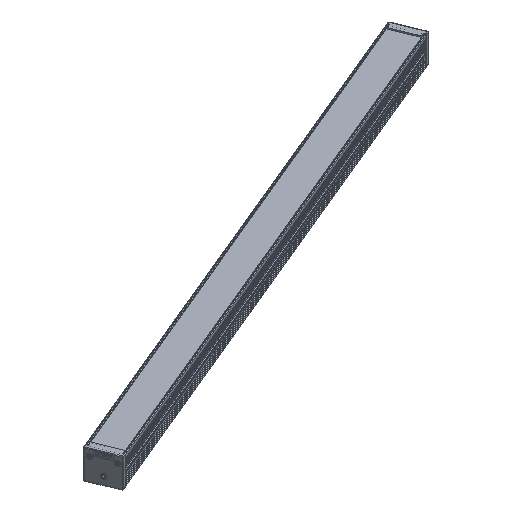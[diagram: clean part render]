
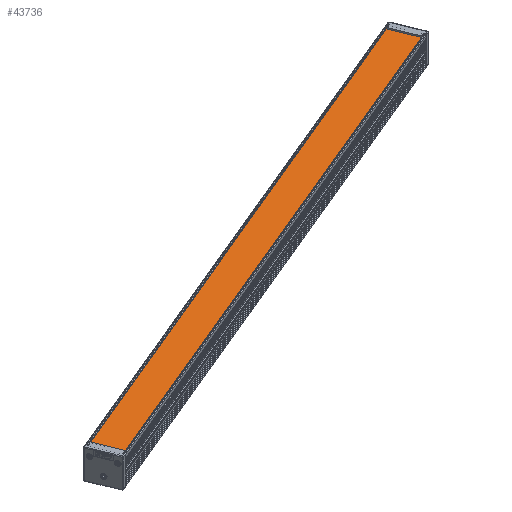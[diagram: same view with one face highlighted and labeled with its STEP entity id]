
A CAD part, isometric view. The second image highlights one B-rep face of the part: STEP entity #43736.
In plain terms, the highlighted planar face has unit normal (0, 0, 1) as drawn and (0, -1, 0) by its records, which use the part's own axes.
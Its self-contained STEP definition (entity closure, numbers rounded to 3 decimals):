
#1294 = LINE ( 'NONE', #52822, #3243 ) ;
#3243 = VECTOR ( 'NONE', #39602, 1000. ) ;
#5414 = VECTOR ( 'NONE', #38707, 1000. ) ;
#5685 = DIRECTION ( 'NONE',  ( 0., 0., -1. ) ) ;
#6526 = CARTESIAN_POINT ( 'NONE',  ( -24., -23.4, 0. ) ) ;
#6977 = VECTOR ( 'NONE', #13030, 1000. ) ;
#7942 = CARTESIAN_POINT ( 'NONE',  ( 24., -23.4, 0. ) ) ;
#8052 = VERTEX_POINT ( 'NONE', #6526 ) ;
#12337 = EDGE_CURVE ( 'NONE', #28512, #8052, #16795, .T. ) ;
#12753 = LINE ( 'NONE', #17315, #6977 ) ;
#13030 = DIRECTION ( 'NONE',  ( 0., 0., -1. ) ) ;
#14309 = FACE_OUTER_BOUND ( 'NONE', #26955, .T. ) ;
#14718 = ORIENTED_EDGE ( 'NONE', *, *, #12337, .F. ) ;
#14790 = VECTOR ( 'NONE', #44465, 1000. ) ;
#16795 = LINE ( 'NONE', #7942, #5414 ) ;
#17315 = CARTESIAN_POINT ( 'NONE',  ( -24., -23.4, 971.094 ) ) ;
#18531 = CARTESIAN_POINT ( 'NONE',  ( 24., -23.4, 923. ) ) ;
#19434 = CARTESIAN_POINT ( 'NONE',  ( 24., -23.4, 971.094 ) ) ;
#20082 = CARTESIAN_POINT ( 'NONE',  ( 24., -23.4, 0. ) ) ;
#20562 = EDGE_CURVE ( 'NONE', #22614, #28512, #1294, .T. ) ;
#22614 = VERTEX_POINT ( 'NONE', #31171 ) ;
#25928 = ORIENTED_EDGE ( 'NONE', *, *, #20562, .F. ) ;
#26465 = AXIS2_PLACEMENT_3D ( 'NONE', #19434, #50243, #5685 ) ;
#26949 = LINE ( 'NONE', #18531, #14790 ) ;
#26955 = EDGE_LOOP ( 'NONE', ( #25928, #45779, #44799, #14718 ) ) ;
#28512 = VERTEX_POINT ( 'NONE', #20082 ) ;
#31171 = CARTESIAN_POINT ( 'NONE',  ( 24., -23.4, 923. ) ) ;
#32802 = EDGE_CURVE ( 'NONE', #52210, #8052, #12753, .T. ) ;
#36778 = PLANE ( 'NONE',  #26465 ) ;
#38707 = DIRECTION ( 'NONE',  ( -1., 0., 0. ) ) ;
#39602 = DIRECTION ( 'NONE',  ( 0., 0., -1. ) ) ;
#43736 = ADVANCED_FACE ( 'NONE', ( #14309 ), #36778, .T. ) ;
#44465 = DIRECTION ( 'NONE',  ( -1., 0., 0. ) ) ;
#44590 = CARTESIAN_POINT ( 'NONE',  ( -24., -23.4, 923. ) ) ;
#44799 = ORIENTED_EDGE ( 'NONE', *, *, #32802, .T. ) ;
#45779 = ORIENTED_EDGE ( 'NONE', *, *, #46635, .T. ) ;
#46635 = EDGE_CURVE ( 'NONE', #22614, #52210, #26949, .T. ) ;
#50243 = DIRECTION ( 'NONE',  ( 0., -1., 0. ) ) ;
#52210 = VERTEX_POINT ( 'NONE', #44590 ) ;
#52822 = CARTESIAN_POINT ( 'NONE',  ( 24., -23.4, 971.094 ) ) ;
